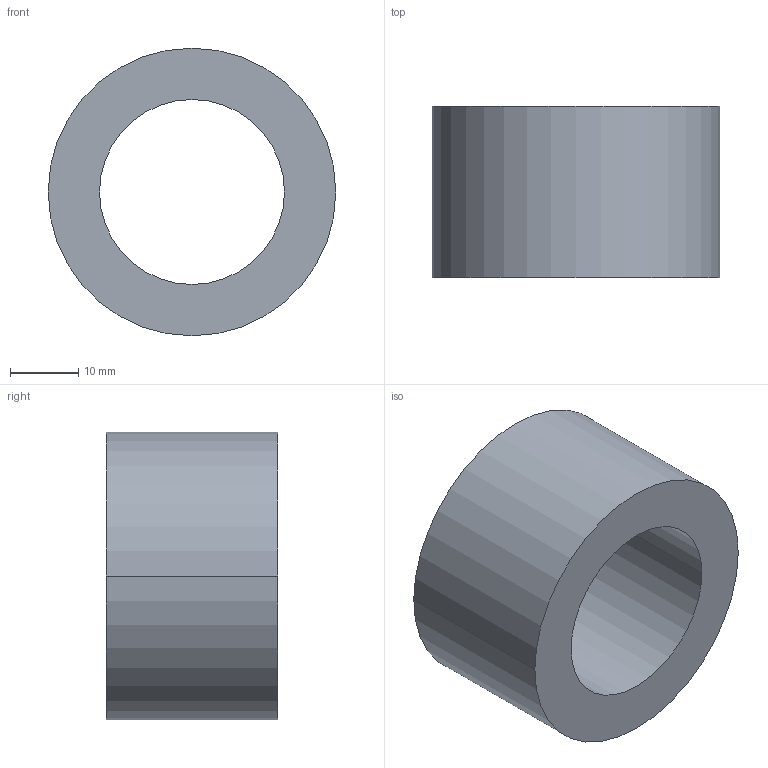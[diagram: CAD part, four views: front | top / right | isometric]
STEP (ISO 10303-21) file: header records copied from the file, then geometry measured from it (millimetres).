
FILE_DESCRIPTION (( 'STEP AP203' ), '1' );
FILE_NAME ('30800.WPP42J27.0.step', '2019-01-23T22:50:05', ( '' ), ( '' ), 'SwSTEP 2.0', 'SolidWorks 2017', '' );
FILE_SCHEMA (( 'CONFIG_CONTROL_DESIGN' ));
Length unit declared in the file: millimetre
Products named in the file (1): 30800.WPP42J27.0
Bounding box: 42 x 25 x 42 mm (x, y, z)
Volume: 20150.2 mm3; surface area: 6939.8 mm2
Topology: 1 solids, 1 shells, 8 faces, 16 edges, 10 vertices
Faces by surface type: cylinder 4, torus 2, plane 2
Entity records: 297 total; most frequent: DIRECTION 46, CARTESIAN_POINT 35, ORIENTED_EDGE 32, AXIS2_PLACEMENT_3D 21, EDGE_CURVE 16, CIRCLE 12, VERTEX_POINT 10, EDGE_LOOP 10
